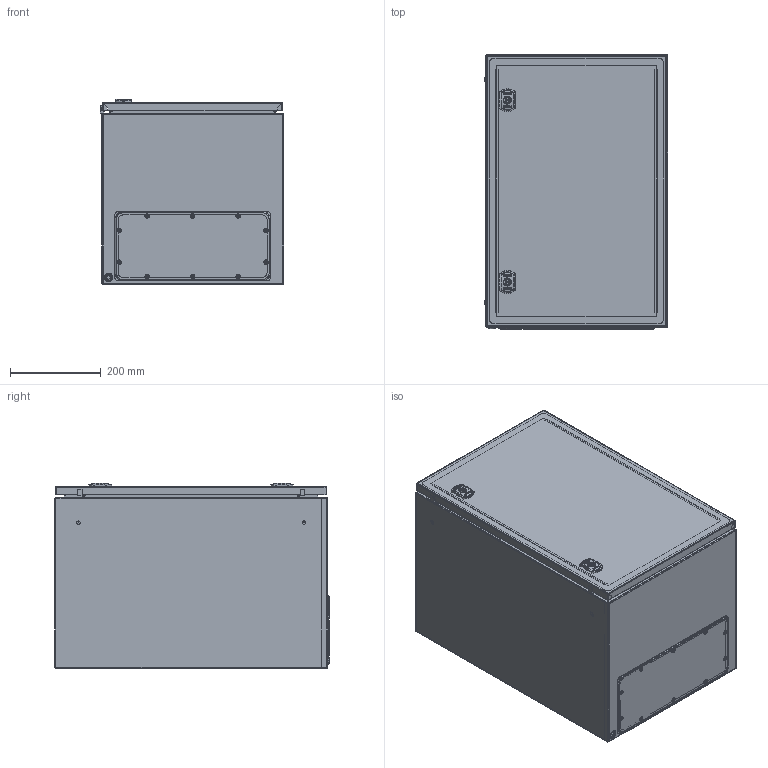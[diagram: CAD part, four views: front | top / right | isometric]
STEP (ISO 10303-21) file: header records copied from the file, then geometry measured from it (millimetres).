
FILE_DESCRIPTION (( 'STEP AP203' ), '1' );
FILE_NAME ('R5ST0644.STEP', '2022-04-28T08:43:09', ( '' ), ( '' ), 'SwSTEP 2.0', 'SolidWorks 2020', '' );
FILE_SCHEMA (( 'CONFIG_CONTROL_DESIGN' ));
Length unit declared in the file: millimetre
Products named in the file (38): PT Ì8õ25 cl.4.8 Cu ISO13918_straight; A7100032-R; RB.2171.00.00.0 捘; RB.0048.11.01.0_-02; RB.2237.00.00.0; AC00C316-R; R5ST0644; RB.0048.11.00.0 C縫-02; M6x16 DIN 7985 PZ cl.4,8 Zinc_straight; AC00C348-R; RB.0048.07.01.0_-02; AC00C317-R; M8 DIN 6923 cl.8,0 Zinc_straight; AC00C356-R_AC00c356(A7100031); PF 7,5x15 door ST_0600x0400; AC00C380-R; M4x10 DIN 7500 M PZ cl.4,8 Zinc_straight; RB.0048.02.00.1 C縫-20; RB.0048.07.00.0 捘_-02; RB.2238.00.00.0; RB.2171.00.01.0; AC00C343-R; RB.0048.01.00.1 C縫-20; PT Ì6õ16 Cu ISO13918_straight; 娗p ST; TPA.08.0002.00.00.0; PF 4x8 flange ST_02; TPA.08.0001.00.00.0; RB.0048.01.02.0_-05; RB.0048.08.00.0 捘_-02; TPA.08.0003.00.00.0; RB.0048.01.01.1_-20; RB.2070.00.00.0; RB.2010.00.00.0_-04; RB.0048.00.02.1_-04; TPA.08.0060.00.00.0 捘; Pin 1.2x12 GOST 3128-70; M4x6 DIN 7985 PH cl.4,8 Zinc_straight
Assembly tree (63 placements, depth 4):
  R5ST0644
    RB.0048.02.00.1 C縫-20
      RB.0048.01.00.1 C縫-20
        RB.0048.01.01.1_-20
        RB.0048.01.02.0_-05
        PT Ì8õ25 cl.4.8 Cu ISO13918_straight  x4
        PT Ì6õ16 Cu ISO13918_straight  x4
      AC00C317-R  x4
      AC00C316-R
      RB.2171.00.00.0 捘  x2
        RB.2171.00.01.0
        Pin 1.2x12 GOST 3128-70
      娗p ST  x2
      M4x6 DIN 7985 PH cl.4,8 Zinc_straight  x2
    RB.0048.11.00.0 C縫-02
      RB.0048.11.01.0_-02
      PF 4x8 flange ST_02
    RB.0048.08.00.0 捘_-02
      RB.0048.07.00.0 捘_-02
        RB.0048.07.01.0_-02
        RB.2237.00.00.0  x2
        RB.2010.00.00.0_-04  x2
      PF 7,5x15 door ST_0600x0400
      TPA.08.0060.00.00.0 捘  x2
        A7100032-R
        AC00C343-R
        AC00C348-R
        TPA.08.0001.00.00.0
        TPA.08.0002.00.00.0
        TPA.08.0003.00.00.0
        M6x16 DIN 7985 PZ cl.4,8 Zinc_straight
      AC00C356-R_AC00c356(A7100031)  x2
    RB.2238.00.00.0  x2
    M8 DIN 6923 cl.8,0 Zinc_straight  x4
    AC00C380-R  x2
    RB.0048.00.02.1_-04
    RB.2070.00.00.0  x4
    M4x10 DIN 7500 M PZ cl.4,8 Zinc_straight  x2
Bounding box: 402.8 x 603.5 x 408.48 mm (x, y, z)
Volume: 2392504.6 mm3; surface area: 3368256 mm2
Topology: 64 solids, 64 shells, 4788 faces, 11961 edges, 7479 vertices
Faces by surface type: plane 2231, cylinder 1411, bspline 464, torus 352, cone 252, sphere 78
Entity records: 112256 total; most frequent: CARTESIAN_POINT 33167, ORIENTED_EDGE 15640, DIRECTION 15039, EDGE_CURVE 7820, AXIS2_PLACEMENT_3D 5079, VERTEX_POINT 4937, LINE 4881, VECTOR 4881
